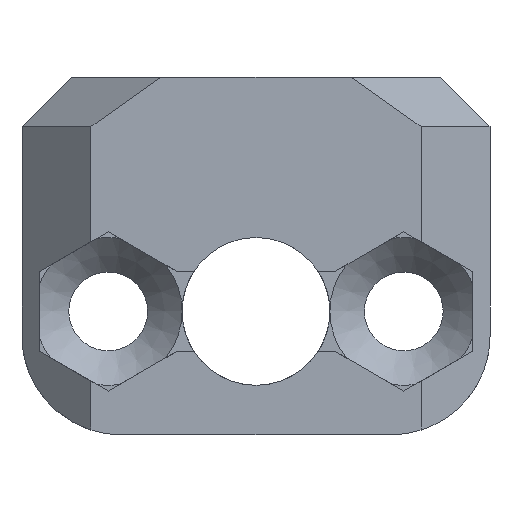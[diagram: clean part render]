
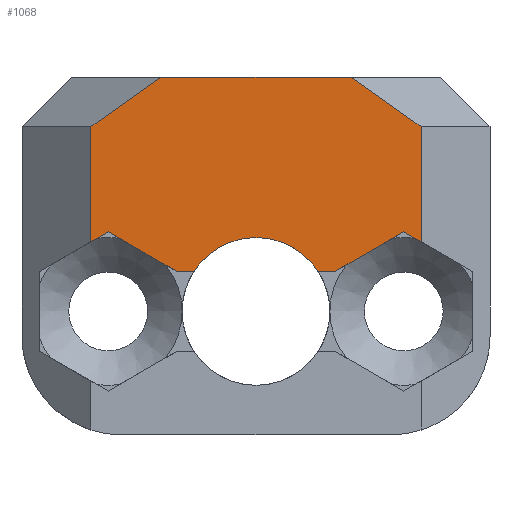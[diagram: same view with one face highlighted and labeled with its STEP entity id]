
A CAD part, front view. The second image highlights one B-rep face of the part: STEP entity #1068.
In plain terms, the highlighted planar face has unit normal (0, -1, 0).
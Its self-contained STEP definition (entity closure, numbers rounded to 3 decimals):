
#57=FACE_OUTER_BOUND('',#116,.T.);
#116=EDGE_LOOP('',(#799,#800,#801,#802,#803,#804,#805,#806,#807,#808,#809,
#810,#811));
#182=CIRCLE('',#1158,3.);
#187=CIRCLE('',#1163,3.);
#210=LINE('',#1559,#320);
#238=LINE('',#1716,#348);
#243=LINE('',#1725,#353);
#248=LINE('',#1736,#358);
#249=LINE('',#1738,#359);
#250=LINE('',#1740,#360);
#251=LINE('',#1742,#361);
#252=LINE('',#1744,#362);
#253=LINE('',#1745,#363);
#254=LINE('',#1747,#364);
#255=LINE('',#1748,#365);
#320=VECTOR('',#1245,10.);
#348=VECTOR('',#1345,10.);
#353=VECTOR('',#1352,10.);
#358=VECTOR('',#1363,10.);
#359=VECTOR('',#1364,10.);
#360=VECTOR('',#1365,10.);
#361=VECTOR('',#1366,10.);
#362=VECTOR('',#1367,10.);
#363=VECTOR('',#1368,10.);
#364=VECTOR('',#1369,10.);
#365=VECTOR('',#1370,10.);
#432=VERTEX_POINT('',#1556);
#433=VERTEX_POINT('',#1558);
#482=VERTEX_POINT('',#1694);
#483=VERTEX_POINT('',#1695);
#488=VERTEX_POINT('',#1708);
#490=VERTEX_POINT('',#1715);
#493=VERTEX_POINT('',#1723);
#496=VERTEX_POINT('',#1735);
#497=VERTEX_POINT('',#1737);
#498=VERTEX_POINT('',#1739);
#499=VERTEX_POINT('',#1741);
#500=VERTEX_POINT('',#1743);
#501=VERTEX_POINT('',#1746);
#539=EDGE_CURVE('',#432,#433,#210,.T.);
#595=EDGE_CURVE('',#482,#483,#182,.T.);
#604=EDGE_CURVE('',#483,#488,#187,.T.);
#607=EDGE_CURVE('',#490,#482,#238,.T.);
#612=EDGE_CURVE('',#488,#493,#243,.T.);
#617=EDGE_CURVE('',#496,#493,#248,.T.);
#618=EDGE_CURVE('',#496,#497,#249,.T.);
#619=EDGE_CURVE('',#497,#498,#250,.T.);
#620=EDGE_CURVE('',#498,#499,#251,.T.);
#621=EDGE_CURVE('',#500,#499,#252,.T.);
#622=EDGE_CURVE('',#500,#433,#253,.T.);
#623=EDGE_CURVE('',#432,#501,#254,.T.);
#624=EDGE_CURVE('',#490,#501,#255,.T.);
#799=ORIENTED_EDGE('',*,*,#612,.T.);
#800=ORIENTED_EDGE('',*,*,#617,.F.);
#801=ORIENTED_EDGE('',*,*,#618,.T.);
#802=ORIENTED_EDGE('',*,*,#619,.T.);
#803=ORIENTED_EDGE('',*,*,#620,.T.);
#804=ORIENTED_EDGE('',*,*,#621,.F.);
#805=ORIENTED_EDGE('',*,*,#622,.T.);
#806=ORIENTED_EDGE('',*,*,#539,.F.);
#807=ORIENTED_EDGE('',*,*,#623,.T.);
#808=ORIENTED_EDGE('',*,*,#624,.F.);
#809=ORIENTED_EDGE('',*,*,#607,.T.);
#810=ORIENTED_EDGE('',*,*,#595,.T.);
#811=ORIENTED_EDGE('',*,*,#604,.T.);
#1018=PLANE('',#1169);
#1068=ADVANCED_FACE('',(#57),#1018,.T.);
#1158=AXIS2_PLACEMENT_3D('',#1696,#1324,#1325);
#1163=AXIS2_PLACEMENT_3D('',#1710,#1338,#1339);
#1169=AXIS2_PLACEMENT_3D('',#1734,#1361,#1362);
#1245=DIRECTION('',(0.,0.,1.));
#1324=DIRECTION('center_axis',(0.,1.,0.));
#1325=DIRECTION('ref_axis',(0.,0.,-1.));
#1338=DIRECTION('center_axis',(0.,1.,0.));
#1339=DIRECTION('ref_axis',(0.,0.,-1.));
#1345=DIRECTION('',(1.,0.,0.));
#1352=DIRECTION('',(1.,0.,0.));
#1361=DIRECTION('center_axis',(0.,-1.,0.));
#1362=DIRECTION('ref_axis',(0.,0.,-1.));
#1363=DIRECTION('',(-0.866,0.,-0.5));
#1364=DIRECTION('',(0.866,0.,-0.5));
#1365=DIRECTION('',(0.,0.,1.));
#1366=DIRECTION('',(-0.816,0.,0.577));
#1367=DIRECTION('',(1.,0.,0.));
#1368=DIRECTION('',(-0.816,0.,-0.577));
#1369=DIRECTION('',(0.866,0.,0.5));
#1370=DIRECTION('',(-0.866,0.,0.5));
#1556=CARTESIAN_POINT('',(-6.7,-7.3,-94.171));
#1558=CARTESIAN_POINT('',(-6.7,-7.3,-89.5));
#1559=CARTESIAN_POINT('',(-6.7,-7.3,-98.5));
#1694=CARTESIAN_POINT('',(-2.528,-7.3,-95.383));
#1695=CARTESIAN_POINT('',(0.,-7.3,-94.));
#1696=CARTESIAN_POINT('Origin',(0.,-7.3,
-97.));
#1708=CARTESIAN_POINT('',(2.527,-7.3,-95.383));
#1710=CARTESIAN_POINT('Origin',(0.,-7.3,
-97.));
#1715=CARTESIAN_POINT('',(-3.2,-7.3,-95.383));
#1716=CARTESIAN_POINT('',(1.6,-7.3,-95.383));
#1723=CARTESIAN_POINT('',(3.2,-7.3,-95.383));
#1725=CARTESIAN_POINT('',(1.6,-7.3,-95.383));
#1734=CARTESIAN_POINT('Origin',(0.,-7.3,
-98.));
#1735=CARTESIAN_POINT('',(6.,-7.3,-93.767));
#1736=CARTESIAN_POINT('',(2.833,-7.3,-95.595));
#1737=CARTESIAN_POINT('',(6.7,-7.3,-94.171));
#1738=CARTESIAN_POINT('',(6.066,-7.3,-93.805));
#1739=CARTESIAN_POINT('',(6.7,-7.3,-89.5));
#1740=CARTESIAN_POINT('',(6.7,-7.3,-95.875));
#1741=CARTESIAN_POINT('',(3.872,-7.3,-87.5));
#1742=CARTESIAN_POINT('',(6.182,-7.3,-89.134));
#1743=CARTESIAN_POINT('',(-3.872,-7.3,-87.5));
#1744=CARTESIAN_POINT('',(0.,-7.3,-87.5));
#1745=CARTESIAN_POINT('',(-6.182,-7.3,-89.134));
#1746=CARTESIAN_POINT('',(-6.,-7.3,-93.767));
#1747=CARTESIAN_POINT('',(-4.667,-7.3,-92.997));
#1748=CARTESIAN_POINT('',(-1.434,-7.3,-96.403));
